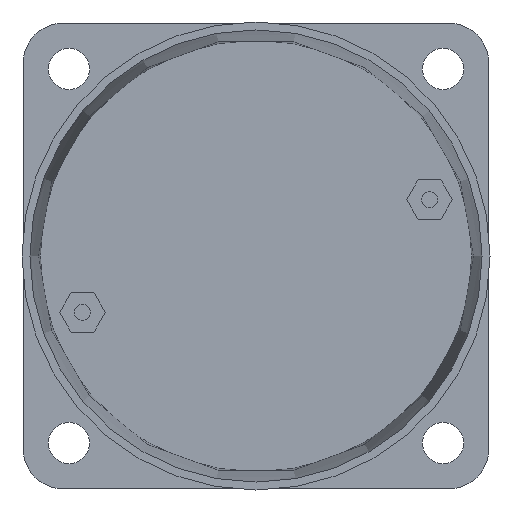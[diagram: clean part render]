
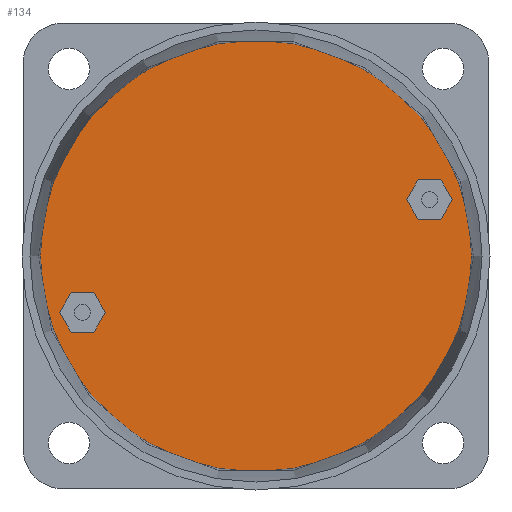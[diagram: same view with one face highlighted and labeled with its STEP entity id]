
A CAD part, left-side view. The second image highlights one B-rep face of the part: STEP entity #134.
In plain terms, the highlighted planar face has unit normal (-1, 0, 0).
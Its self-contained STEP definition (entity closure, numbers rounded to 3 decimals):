
#134 = ADVANCED_FACE( '', ( #307, #308, #309 ), #310, .F. );
#307 = FACE_OUTER_BOUND( '', #506, .T. );
#308 = FACE_BOUND( '', #507, .T. );
#309 = FACE_BOUND( '', #508, .T. );
#310 = PLANE( '', #509 );
#506 = EDGE_LOOP( '', ( #809 ) );
#507 = EDGE_LOOP( '', ( #810, #811, #812, #813, #814, #815 ) );
#508 = EDGE_LOOP( '', ( #816, #817, #818, #819, #820, #821 ) );
#509 = AXIS2_PLACEMENT_3D( '', #822, #823, #824 );
#809 = ORIENTED_EDGE( '', *, *, #1086, .F. );
#810 = ORIENTED_EDGE( '', *, *, #1080, .T. );
#811 = ORIENTED_EDGE( '', *, *, #1051, .T. );
#812 = ORIENTED_EDGE( '', *, *, #1037, .T. );
#813 = ORIENTED_EDGE( '', *, *, #1087, .T. );
#814 = ORIENTED_EDGE( '', *, *, #1061, .T. );
#815 = ORIENTED_EDGE( '', *, *, #1067, .T. );
#816 = ORIENTED_EDGE( '', *, *, #1088, .T. );
#817 = ORIENTED_EDGE( '', *, *, #1089, .T. );
#818 = ORIENTED_EDGE( '', *, *, #1090, .T. );
#819 = ORIENTED_EDGE( '', *, *, #1072, .T. );
#820 = ORIENTED_EDGE( '', *, *, #1091, .T. );
#821 = ORIENTED_EDGE( '', *, *, #1092, .T. );
#822 = CARTESIAN_POINT( '', ( -11.25, 29.5, 0. ) );
#823 = DIRECTION( '', ( 1., 0., 0. ) );
#824 = DIRECTION( '', ( 0., 1., 0. ) );
#1037 = EDGE_CURVE( '', #1212, #1216, #1218, .T. );
#1051 = EDGE_CURVE( '', #1236, #1212, #1239, .T. );
#1061 = EDGE_CURVE( '', #1249, #1253, #1255, .T. );
#1067 = EDGE_CURVE( '', #1253, #1261, #1263, .T. );
#1072 = EDGE_CURVE( '', #1266, #1270, #1272, .T. );
#1080 = EDGE_CURVE( '', #1261, #1236, #1283, .T. );
#1086 = EDGE_CURVE( '', #1291, #1291, #1292, .T. );
#1087 = EDGE_CURVE( '', #1216, #1249, #1293, .T. );
#1088 = EDGE_CURVE( '', #1294, #1295, #1296, .T. );
#1089 = EDGE_CURVE( '', #1295, #1297, #1298, .T. );
#1090 = EDGE_CURVE( '', #1297, #1266, #1299, .T. );
#1091 = EDGE_CURVE( '', #1270, #1300, #1301, .T. );
#1092 = EDGE_CURVE( '', #1300, #1294, #1302, .T. );
#1212 = VERTEX_POINT( '', #1445 );
#1216 = VERTEX_POINT( '', #1451 );
#1218 = LINE( '', #1454, #1455 );
#1236 = VERTEX_POINT( '', #1475 );
#1239 = LINE( '', #1480, #1481 );
#1249 = VERTEX_POINT( '', #1492 );
#1253 = VERTEX_POINT( '', #1498 );
#1255 = LINE( '', #1501, #1502 );
#1261 = VERTEX_POINT( '', #1510 );
#1263 = LINE( '', #1513, #1514 );
#1266 = VERTEX_POINT( '', #1517 );
#1270 = VERTEX_POINT( '', #1523 );
#1272 = LINE( '', #1526, #1527 );
#1283 = LINE( '', #1539, #1540 );
#1291 = VERTEX_POINT( '', #1549 );
#1292 = CIRCLE( '', #1550, 27.191 );
#1293 = LINE( '', #1551, #1552 );
#1294 = VERTEX_POINT( '', #1553 );
#1295 = VERTEX_POINT( '', #1554 );
#1296 = LINE( '', #1555, #1556 );
#1297 = VERTEX_POINT( '', #1557 );
#1298 = LINE( '', #1558, #1559 );
#1299 = LINE( '', #1560, #1561 );
#1300 = VERTEX_POINT( '', #1562 );
#1301 = LINE( '', #1563, #1564 );
#1302 = LINE( '', #1565, #1566 );
#1445 = CARTESIAN_POINT( '', ( -11.25, 6.182, 4.607 ) );
#1451 = CARTESIAN_POINT( '', ( -11.25, 9.069, 4.607 ) );
#1454 = CARTESIAN_POINT( '', ( -11.25, 6.182, 4.607 ) );
#1455 = VECTOR( '', #1708, 1000. );
#1475 = CARTESIAN_POINT( '', ( -11.25, 4.739, 7.107 ) );
#1480 = CARTESIAN_POINT( '', ( -11.25, 4.739, 7.107 ) );
#1481 = VECTOR( '', #1728, 1000. );
#1492 = CARTESIAN_POINT( '', ( -11.25, 10.512, 7.107 ) );
#1498 = CARTESIAN_POINT( '', ( -11.25, 9.069, 9.607 ) );
#1501 = CARTESIAN_POINT( '', ( -11.25, 10.512, 7.107 ) );
#1502 = VECTOR( '', #1739, 1000. );
#1510 = CARTESIAN_POINT( '', ( -11.25, 6.182, 9.607 ) );
#1513 = CARTESIAN_POINT( '', ( -11.25, 9.069, 9.607 ) );
#1514 = VECTOR( '', #1743, 1000. );
#1517 = CARTESIAN_POINT( '', ( -11.25, 49.931, -4.607 ) );
#1523 = CARTESIAN_POINT( '', ( -11.25, 48.488, -7.107 ) );
#1526 = CARTESIAN_POINT( '', ( -11.25, 49.931, -4.607 ) );
#1527 = VECTOR( '', #1747, 1000. );
#1539 = CARTESIAN_POINT( '', ( -11.25, 6.182, 9.607 ) );
#1540 = VECTOR( '', #1758, 1000. );
#1549 = CARTESIAN_POINT( '', ( -11.25, 29.5, -27.191 ) );
#1550 = AXIS2_PLACEMENT_3D( '', #1763, #1764, #1765 );
#1551 = CARTESIAN_POINT( '', ( -11.25, 9.069, 4.607 ) );
#1552 = VECTOR( '', #1766, 1000. );
#1553 = CARTESIAN_POINT( '', ( -11.25, 52.818, -9.607 ) );
#1554 = CARTESIAN_POINT( '', ( -11.25, 54.261, -7.107 ) );
#1555 = CARTESIAN_POINT( '', ( -11.25, 52.818, -9.607 ) );
#1556 = VECTOR( '', #1767, 1000. );
#1557 = CARTESIAN_POINT( '', ( -11.25, 52.818, -4.607 ) );
#1558 = CARTESIAN_POINT( '', ( -11.25, 54.261, -7.107 ) );
#1559 = VECTOR( '', #1768, 1000. );
#1560 = CARTESIAN_POINT( '', ( -11.25, 52.818, -4.607 ) );
#1561 = VECTOR( '', #1769, 1000. );
#1562 = CARTESIAN_POINT( '', ( -11.25, 49.931, -9.607 ) );
#1563 = CARTESIAN_POINT( '', ( -11.25, 48.488, -7.107 ) );
#1564 = VECTOR( '', #1770, 1000. );
#1565 = CARTESIAN_POINT( '', ( -11.25, 49.931, -9.607 ) );
#1566 = VECTOR( '', #1771, 1000. );
#1708 = DIRECTION( '', ( 0., 1., 0. ) );
#1728 = DIRECTION( '', ( 0., 0.5, -0.866 ) );
#1739 = DIRECTION( '', ( 0., -0.5, 0.866 ) );
#1743 = DIRECTION( '', ( 0., -1., 0. ) );
#1747 = DIRECTION( '', ( 0., -0.5, -0.866 ) );
#1758 = DIRECTION( '', ( 0., -0.5, -0.866 ) );
#1763 = CARTESIAN_POINT( '', ( -11.25, 29.5, 0. ) );
#1764 = DIRECTION( '', ( 1., 0., 0. ) );
#1765 = DIRECTION( '', ( 0., 0., -1. ) );
#1766 = DIRECTION( '', ( 0., 0.5, 0.866 ) );
#1767 = DIRECTION( '', ( 0., 0.5, 0.866 ) );
#1768 = DIRECTION( '', ( 0., -0.5, 0.866 ) );
#1769 = DIRECTION( '', ( 0., -1., 0. ) );
#1770 = DIRECTION( '', ( 0., 0.5, -0.866 ) );
#1771 = DIRECTION( '', ( 0., 1., 0. ) );
